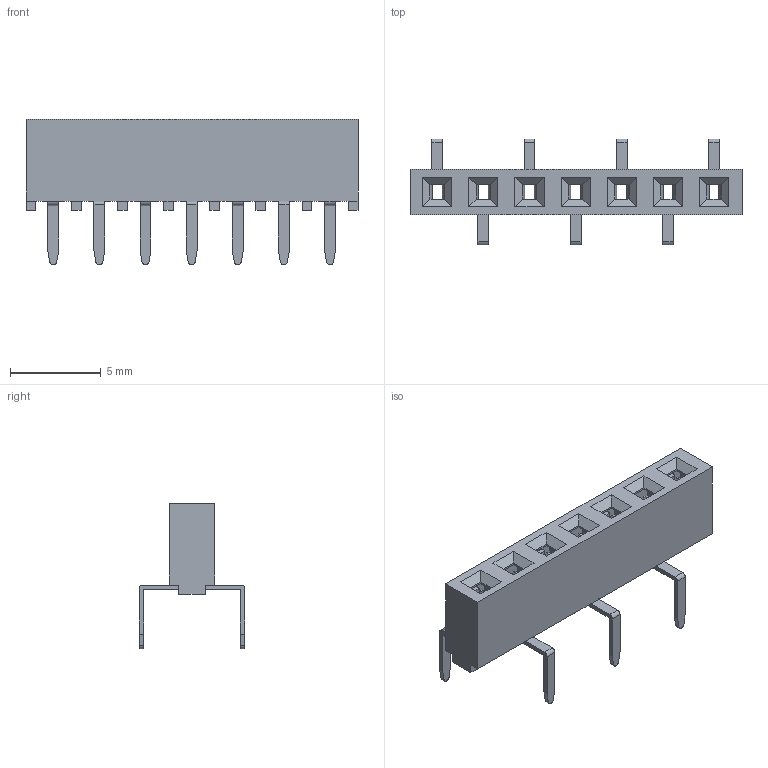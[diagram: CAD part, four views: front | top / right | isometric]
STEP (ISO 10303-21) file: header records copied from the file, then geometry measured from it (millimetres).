
FILE_DESCRIPTION(('CATIA V5 STEP Exchange'),'2;1');
FILE_NAME('F:\小黄\排针 排母\2.54\PM254\PM254-1-N-WC-5.0-XX(L8.0) (2.54 单排 排母 蜈蚣脚 塑高5.0-HCTL)\PM254-1-7-WC-5.0-XX (L8.0) (2.54 单排 排母 蜈蚣脚 塑高5.0-HCTL).stp','2025-10-21T09:48:33+00:00',('none'),('none'),'CATIA Version 5 Release 20 GA (IN-10)','CATIA V5 STEP AP203','none');
FILE_SCHEMA(('CONFIG_CONTROL_DESIGN'));
Length unit declared in the file: millimetre
Products named in the file (1): Part2
Bounding box: 18.28 x 5.83 x 8 mm (x, y, z)
Volume: 147.9 mm3; surface area: 712.5 mm2
Topology: 8 solids, 8 shells, 527 faces, 1438 edges, 940 vertices
Faces by surface type: plane 387, cylinder 140
Entity records: 15253 total; most frequent: ORIENTED_EDGE 2876, CARTESIAN_POINT 2751, DIRECTION 2056, EDGE_CURVE 1438, VECTOR 1144, LINE 1144, VERTEX_POINT 940, AXIS2_PLACEMENT_3D 597
